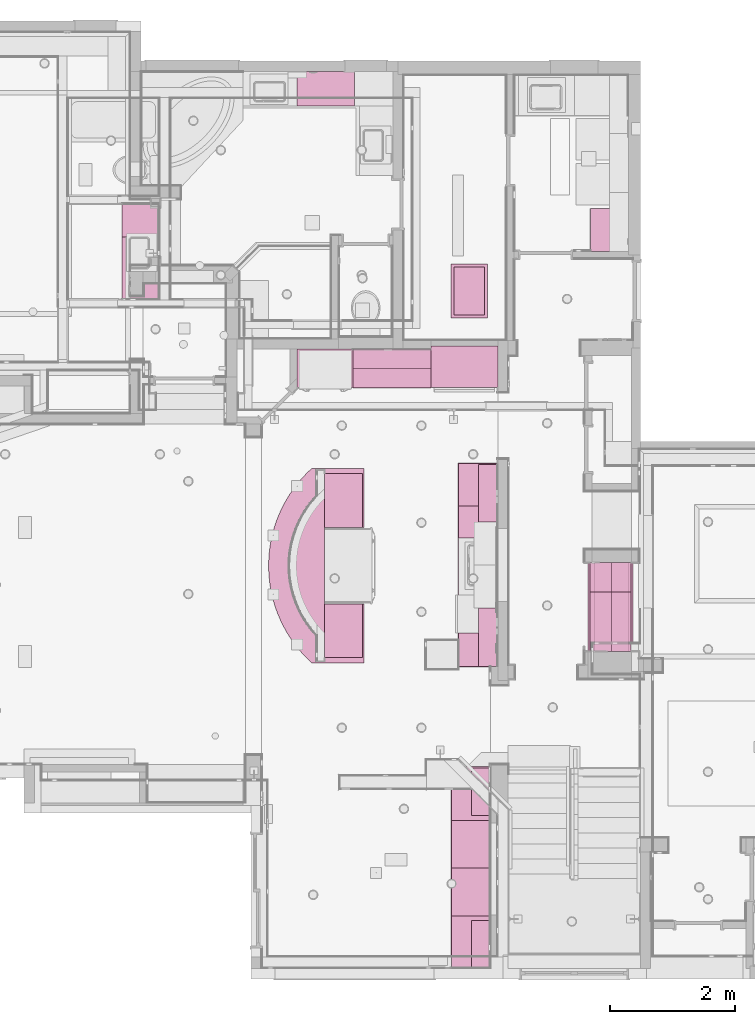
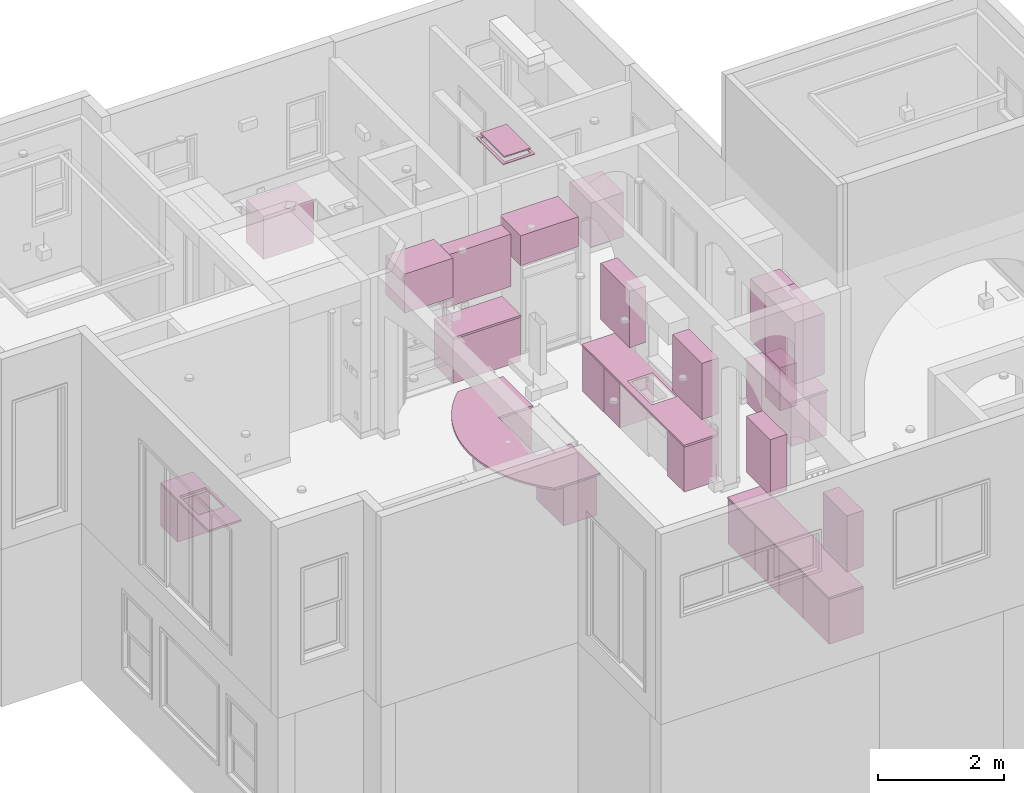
# One storey, part 47 of 60: 33 furnishings.
"""IFC2X3 building model written with IfcOpenShell, lengths in feet."""

from ifc_helpers import new_model, entity, si_unit, converted_unit, direction, frame, frame_2d, origin, origin_2d_with_axis, place, context, subcontext, project, spatial, polyline, circle_curve, parameter, trimmed, segment, composite_curve, rectangle, outline, extrude, faceted_brep, source, transform, mapped, material, type_object, type_shapes, element, save


model = new_model("IFC2X3")

# Units and contexts
model_context = context("Model", 3, precision=0.0001, world=origin(), true_north=direction((6.123031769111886e-17, 1.0)))
plan_context = context("Plan", 3, precision=0.0001, world=origin(), true_north=direction((6.123031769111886e-17, 1.0)))
body_context = subcontext(model_context, "Body", "Model", "MODEL_VIEW")
ifc_project = project(units=[converted_unit("LENGTHUNIT", "FOOT", entity("IfcLengthMeasure", 0.3048), si_unit("LENGTHUNIT", "METRE"), dimensions=[1, 0, 0, 0, 0, 0, 0]), converted_unit("AREAUNIT", "SQUARE FOOT", entity("IfcAreaMeasure", 0.09290304), si_unit("AREAUNIT", "SQUARE_METRE"), dimensions=[2, 0, 0, 0, 0, 0, 0]), converted_unit("PLANEANGLEUNIT", "DEGREE", entity("IfcPlaneAngleMeasure", 0.017453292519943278), si_unit("PLANEANGLEUNIT", "RADIAN"), dimensions=[0, 0, 0, 0, 0, 0, 0])], contexts=[model_context, plan_context])

# Site, building, storey
site_placement = place(None, origin())
site = spatial("IfcSite", under=ifc_project, at=site_placement, Name="Default", CompositionType="ELEMENT")
building_placement = place(site_placement, origin())
building = spatial("IfcBuilding", under=site, at=building_placement, CompositionType="ELEMENT")
storey_placement = place(building_placement, origin())
storey = spatial("IfcBuildingStorey", under=building, at=storey_placement, Name="First floor", CompositionType="ELEMENT", Elevation=0.0)

# Furnishings
ifc_material = material(Name="Default New Material")
furniture_type_1 = type_object("IfcFurnitureType", Name="C_Cabinet Module Double Door:C_Cabinet Module Double Door", AssemblyPlace="NOTDEFINED", material=ifc_material)
shared_shape_1 = source(origin(), body_context, "Body", "SweptSolid", [
    extrude(rectangle(XDim=0.9999999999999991, YDim=2.5, at=origin_2d_with_axis()), frame((0.0, 0.49999999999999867, 0.0), z_axis=(0.0, 0.0, 1.0), x_axis=(0.0, 1.0, 0.0)), (0.0, 0.0, 1.0), 3.5833333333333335),
])
type_shapes(furniture_type_1, [shared_shape_1])
for number, where, z_axis, x_axis in (
    (1, (12.541666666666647, 1.79166666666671, 14.916666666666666), (0.0, 0.0, 1.0), (0.0, 1.0, 0.0)),
    (2, (12.541666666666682, 9.79132150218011, 14.916666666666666), (0.0, 0.0, 1.0), (0.0, 1.0, 0.0)),
):
    element("IfcFurnishingElement", number, at=place(storey_placement, frame(where, z_axis=z_axis, x_axis=x_axis)), inside=storey, type_object=furniture_type_1, material=ifc_material, Name="C_Cabinet Module Double Door:C_Cabinet Module Double Door", ObjectType="C_Cabinet Module Double Door:C_Cabinet Module Double Door", context=body_context, shape_type="MappedRepresentation", body=[
        mapped(shared_shape_1, transform((0.0, 0.0, 0.0), scale=1.0)),
    ])
furniture_type_2 = type_object("IfcFurnitureType", Name="C_Cabinet Module Double Door:C_Cabinet Module Double Door", AssemblyPlace="NOTDEFINED", material=ifc_material)
shared_shape_2 = source(origin(), body_context, "Body", "SweptSolid", [
    extrude(rectangle(XDim=0.9999999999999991, YDim=3.0625, at=origin_2d_with_axis()), frame((0.0, 0.49999999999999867, 0.0), z_axis=(0.0, 0.0, 1.0), x_axis=(0.0, 1.0, 0.0)), (0.0, 0.0, 1.0), 3.5833333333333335),
])
type_shapes(furniture_type_2, [shared_shape_2])
furnishing_1_placement = place(storey_placement, frame((12.916666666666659, 17.885071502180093, 14.916666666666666), z_axis=(0.0, 0.0, 1.0), x_axis=(0.0, 1.0, 0.0)))
element("IfcFurnishingElement", 3, at=furnishing_1_placement, inside=storey, type_object=furniture_type_2, material=ifc_material, Name="C_Cabinet Module Double Door:C_Cabinet Module Double Door", ObjectType="C_Cabinet Module Double Door:C_Cabinet Module Double Door", context=body_context, shape_type="MappedRepresentation", body=[
    mapped(shared_shape_2, transform((0.0, 0.0, 0.0), scale=1.0)),
])
furniture_type_3 = type_object("IfcFurnitureType", Name="C_Cabinet Module Double Door:C_Cabinet Module Double Door", AssemblyPlace="NOTDEFINED", material=ifc_material)
shared_shape_3 = source(origin(), body_context, "Body", "SweptSolid", [
    extrude(rectangle(XDim=0.9999999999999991, YDim=3.0, at=origin_2d_with_axis()), frame((0.0, 0.49999999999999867, 0.0), z_axis=(0.0, 0.0, 1.0), x_axis=(0.0, 1.0, 0.0)), (0.0, 0.0, 1.0), 3.5833333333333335),
])
type_shapes(furniture_type_3, [shared_shape_3])
furnishing_2_placement = place(storey_placement, frame((12.916666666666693, 25.416321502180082, 14.916666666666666), z_axis=(0.0, 0.0, 1.0), x_axis=(0.0, 1.0, 0.0)))
element("IfcFurnishingElement", 4, at=furnishing_2_placement, inside=storey, type_object=furniture_type_3, material=ifc_material, Name="C_Cabinet Module Double Door:C_Cabinet Module Double Door", ObjectType="C_Cabinet Module Double Door:C_Cabinet Module Double Door", context=body_context, shape_type="MappedRepresentation", body=[
    mapped(shared_shape_3, transform((0.0, 0.0, 0.0), scale=1.0)),
])
furniture_type_4 = type_object("IfcFurnitureType", Name="C_Cabinet Module Double Door:C_Cabinet Module Double Door", AssemblyPlace="NOTDEFINED", material=ifc_material)
shared_shape_4 = source(origin(), body_context, "Body", "SweptSolid", [
    extrude(rectangle(XDim=2.0625, YDim=2.7503255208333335, at=origin_2d_with_axis()), frame((0.0, 1.0312499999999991, 0.0), z_axis=(0.0, 0.0, 1.0), x_axis=(0.0, 1.0, 0.0)), (0.0, 0.0, 1.0), 2.875),
])
type_shapes(furniture_type_4, [shared_shape_4])
furnishing_3_placement = place(storey_placement, frame((12.541666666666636, 1.9168294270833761, 10.666666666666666), z_axis=(0.0, 0.0, 1.0), x_axis=(0.0, 1.0, 0.0)))
element("IfcFurnishingElement", 5, at=furnishing_3_placement, inside=storey, type_object=furniture_type_4, material=ifc_material, Name="C_Cabinet Module Double Door:C_Cabinet Module Double Door", ObjectType="C_Cabinet Module Double Door:C_Cabinet Module Double Door", context=body_context, shape_type="MappedRepresentation", body=[
    mapped(shared_shape_4, transform((0.0, 0.0, 0.0), scale=1.0)),
])
furniture_type_5 = type_object("IfcFurnitureType", Name="C_Cabinet Module Double Door:C_Cabinet Module Double Door", AssemblyPlace="NOTDEFINED", material=ifc_material)
shared_shape_5 = source(origin(), body_context, "Body", "SweptSolid", [
    extrude(rectangle(XDim=2.0625, YDim=2.5, at=origin_2d_with_axis()), frame((0.0, 1.0312499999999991, 0.0), z_axis=(0.0, 0.0, 1.0), x_axis=(0.0, 1.0, 0.0)), (0.0, 0.0, 1.0), 2.875),
])
type_shapes(furniture_type_5, [shared_shape_5])
for number, where, z_axis, x_axis in (
    (6, (12.541666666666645, 4.542031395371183, 10.666666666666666), (0.0, 0.0, 1.0), (0.0, 1.0, 0.0)),
    (7, (12.54166666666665, 7.042031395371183, 10.666666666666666), (0.0, 0.0, 1.0), (0.0, 1.0, 0.0)),
):
    element("IfcFurnishingElement", number, at=place(storey_placement, frame(where, z_axis=z_axis, x_axis=x_axis)), inside=storey, type_object=furniture_type_5, material=ifc_material, Name="C_Cabinet Module Double Door:C_Cabinet Module Double Door", ObjectType="C_Cabinet Module Double Door:C_Cabinet Module Double Door", context=body_context, shape_type="MappedRepresentation", body=[
        mapped(shared_shape_5, transform((0.0, 0.0, 0.0), scale=1.0)),
    ])
furniture_type_6 = type_object("IfcFurnitureType", Name="C_Cabinet Module Double Door:C_Cabinet Module Double Door", AssemblyPlace="NOTDEFINED", material=ifc_material)
shared_shape_6 = source(origin(), body_context, "Body", "SweptSolid", [
    extrude(rectangle(XDim=2.0625, YDim=2.8121744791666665, at=origin_2d_with_axis()), frame((0.0, 1.0312499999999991, 0.0), z_axis=(0.0, 0.0, 1.0), x_axis=(0.0, 1.0, 0.0)), (0.0, 0.0, 1.0), 2.875),
])
type_shapes(furniture_type_6, [shared_shape_6])
furnishing_4_placement = place(storey_placement, frame((12.54166666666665, 9.698079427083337, 10.666666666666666), z_axis=(0.0, 0.0, 1.0), x_axis=(0.0, 1.0, 0.0)))
element("IfcFurnishingElement", 8, at=furnishing_4_placement, inside=storey, type_object=furniture_type_6, material=ifc_material, Name="C_Cabinet Module Double Door:C_Cabinet Module Double Door", ObjectType="C_Cabinet Module Double Door:C_Cabinet Module Double Door", context=body_context, shape_type="MappedRepresentation", body=[
    mapped(shared_shape_6, transform((0.0, 0.0, 0.0), scale=1.0)),
])
furniture_type_7 = type_object("IfcFurnitureType", Name="C_Cabinet Module Double Door:C_Cabinet Module Double Door", AssemblyPlace="NOTDEFINED", material=ifc_material)
shared_shape_7 = source(origin(), body_context, "Body", "SweptSolid", [
    extrude(rectangle(XDim=2.0625, YDim=2.2291666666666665, at=origin_2d_with_axis()), frame((0.0, 1.0312499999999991, 0.0), z_axis=(0.0, 0.0, 1.0), x_axis=(0.0, 1.0, 0.0)), (0.0, 0.0, 1.0), 2.875),
])
type_shapes(furniture_type_7, [shared_shape_7])
furnishing_5_placement = place(storey_placement, frame((12.916666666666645, 25.864238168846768, 10.666666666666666), z_axis=(0.0, 0.0, 1.0), x_axis=(0.0, 1.0, 0.0)))
element("IfcFurnishingElement", 9, at=furnishing_5_placement, inside=storey, type_object=furniture_type_7, material=ifc_material, Name="C_Cabinet Module Double Door:C_Cabinet Module Double Door", ObjectType="C_Cabinet Module Double Door:C_Cabinet Module Double Door", context=body_context, shape_type="MappedRepresentation", body=[
    mapped(shared_shape_7, transform((0.0, 0.0, 0.0), scale=1.0)),
])
furniture_type_8 = type_object("IfcFurnitureType", Name="C_Cabinet Single Module:C_Cabinet Single Module", AssemblyPlace="NOTDEFINED", material=ifc_material)
shared_shape_8 = source(origin(), body_context, "Body", "SweptSolid", [
    extrude(rectangle(XDim=1.6666666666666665, YDim=2.062500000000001, at=origin_2d_with_axis()), frame((0.0, -1.0312499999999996, 0.0), z_axis=(0.0, 0.0, 1.0), x_axis=(-1.0, 0.0, 0.0)), (0.0, 0.0, 1.0), 2.875),
])
type_shapes(furniture_type_8, [shared_shape_8])
furnishing_6_placement = place(storey_placement, frame((12.916666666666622, 23.916321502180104, 10.666666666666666), z_axis=(0.0, 0.0, 1.0), x_axis=(0.0, -1.0, 0.0)))
element("IfcFurnishingElement", 10, at=furnishing_6_placement, inside=storey, type_object=furniture_type_8, material=ifc_material, Name="C_Cabinet Single Module:C_Cabinet Single Module", ObjectType="C_Cabinet Single Module:C_Cabinet Single Module", context=body_context, shape_type="MappedRepresentation", body=[
    mapped(shared_shape_8, transform((0.0, 0.0, 0.0), scale=1.0)),
])
furniture_type_9 = type_object("IfcFurnitureType", Name="C_Cabinet Single Module:C_Cabinet Single Module", AssemblyPlace="NOTDEFINED", material=ifc_material)
shared_shape_9 = source(origin(), body_context, "Body", "SweptSolid", [
    extrude(rectangle(XDim=1.7343749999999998, YDim=2.062500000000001, at=origin_2d_with_axis()), frame((0.0, -1.0312499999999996, 0.0), z_axis=(0.0, 0.0, 1.0), x_axis=(-1.0, 0.0, 0.0)), (0.0, 0.0, 1.0), 2.875),
])
type_shapes(furniture_type_9, [shared_shape_9])
furnishing_7_placement = place(storey_placement, frame((12.916666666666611, 17.2210090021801, 10.666666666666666), z_axis=(0.0, 0.0, 1.0), x_axis=(0.0, -1.0, 0.0)))
element("IfcFurnishingElement", 11, at=furnishing_7_placement, inside=storey, type_object=furniture_type_9, material=ifc_material, Name="C_Cabinet Single Module:C_Cabinet Single Module", ObjectType="C_Cabinet Single Module:C_Cabinet Single Module", context=body_context, shape_type="MappedRepresentation", body=[
    mapped(shared_shape_9, transform((0.0, 0.0, 0.0), scale=1.0)),
])
furniture_type_10 = type_object("IfcFurnitureType", Name="C_Cabinet Module Double Door:C_Cabinet Module Double Door", AssemblyPlace="NOTDEFINED", material=ifc_material)
shared_shape_10 = source(origin(), body_context, "Body", "SweptSolid", [
    extrude(rectangle(XDim=1.125, YDim=3.109375, at=origin_2d_with_axis()), frame((0.0, 0.5624999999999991, 0.0), z_axis=(0.0, 0.0, 1.0), x_axis=(0.0, 1.0, 0.0)), (0.0, 0.0, 1.0), 2.75),
])
type_shapes(furniture_type_10, [shared_shape_10])
furnishing_8_placement = place(storey_placement, frame((18.875000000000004, 18.67934233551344, 10.666666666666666), z_axis=(0.0, 0.0, 1.0), x_axis=(0.0, 1.0, 0.0)))
element("IfcFurnishingElement", 12, at=furnishing_8_placement, inside=storey, type_object=furniture_type_10, material=ifc_material, Name="C_Cabinet Module Double Door:C_Cabinet Module Double Door", ObjectType="C_Cabinet Module Double Door:C_Cabinet Module Double Door", context=body_context, shape_type="MappedRepresentation", body=[
    mapped(shared_shape_10, transform((0.0, 0.0, 0.0), scale=1.0)),
])
furniture_type_11 = type_object("IfcFurnitureType", Name="C_Cabinet Single Module:C_Cabinet Single Module", AssemblyPlace="NOTDEFINED", material=ifc_material)
shared_shape_11 = source(origin(), body_context, "Body", "SweptSolid", [
    extrude(rectangle(XDim=1.5572916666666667, YDim=1.1250000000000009, at=origin_2d_with_axis()), frame((0.0, -0.5624999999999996, 0.0), z_axis=(0.0, 0.0, 1.0), x_axis=(-1.0, 0.0, 0.0)), (0.0, 0.0, 1.0), 2.75),
])
type_shapes(furniture_type_11, [shared_shape_11])
furnishing_9_placement = place(storey_placement, frame((17.750000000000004, 21.01267566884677, 10.666666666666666), z_axis=(0.0, 0.0, 1.0), x_axis=(0.0, 1.0, 0.0)))
element("IfcFurnishingElement", 13, at=furnishing_9_placement, inside=storey, type_object=furniture_type_11, material=ifc_material, Name="C_Cabinet Single Module:C_Cabinet Single Module", ObjectType="C_Cabinet Single Module:C_Cabinet Single Module", context=body_context, shape_type="MappedRepresentation", body=[
    mapped(shared_shape_11, transform((0.0, 0.0, 0.0), scale=1.0)),
])
furniture_type_12 = type_object("IfcFurnitureType", Name="C_Cabinet Module Double Door:C_Cabinet Module Double Door", AssemblyPlace="NOTDEFINED", material=ifc_material)
shared_shape_12 = source(origin(), body_context, "Body", "SweptSolid", [
    extrude(rectangle(XDim=0.9999999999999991, YDim=3.119791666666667, at=origin_2d_with_axis()), frame((0.0, 0.49999999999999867, 0.0), z_axis=(0.0, 0.0, 1.0), x_axis=(0.0, 1.0, 0.0)), (0.0, 0.0, 1.0), 2.75),
])
type_shapes(furniture_type_12, [shared_shape_12])
furnishing_10_placement = place(storey_placement, frame((18.875000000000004, 18.684550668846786, 10.666666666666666), z_axis=(0.0, 0.0, 1.0), x_axis=(0.0, -1.0, 0.0)))
element("IfcFurnishingElement", 14, at=furnishing_10_placement, inside=storey, type_object=furniture_type_12, material=ifc_material, Name="C_Cabinet Module Double Door:C_Cabinet Module Double Door", ObjectType="C_Cabinet Module Double Door:C_Cabinet Module Double Door", context=body_context, shape_type="MappedRepresentation", body=[
    mapped(shared_shape_12, transform((0.0, 0.0, 0.0), scale=1.0)),
])
furniture_type_13 = type_object("IfcFurnitureType", Name="C_Cabinet Single Module:C_Cabinet Single Module", AssemblyPlace="NOTDEFINED", material=ifc_material)
shared_shape_13 = source(origin(), body_context, "Body", "SweptSolid", [
    extrude(rectangle(XDim=1.546875, YDim=1.0000000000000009, at=origin_2d_with_axis()), frame((0.0, -0.49999999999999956, 0.0), z_axis=(0.0, 0.0, 1.0), x_axis=(-1.0, 0.0, 0.0)), (0.0, 0.0, 1.0), 2.75),
])
type_shapes(furniture_type_13, [shared_shape_13])
furnishing_11_placement = place(storey_placement, frame((18.875000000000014, 21.01788400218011, 10.666666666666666), z_axis=(0.0, 0.0, 1.0), x_axis=(0.0, 1.0, 0.0)))
element("IfcFurnishingElement", 15, at=furnishing_11_placement, inside=storey, type_object=furniture_type_13, material=ifc_material, Name="C_Cabinet Single Module:C_Cabinet Single Module", ObjectType="C_Cabinet Single Module:C_Cabinet Single Module", context=body_context, shape_type="MappedRepresentation", body=[
    mapped(shared_shape_13, transform((0.0, 0.0, 0.0), scale=1.0)),
])
furniture_type_14 = type_object("IfcFurnitureType", Name="C_Cabinet Module Double Door:C_Cabinet Module Double Door", AssemblyPlace="NOTDEFINED", material=ifc_material)
shared_shape_14 = source(origin(), body_context, "Body", "SweptSolid", [
    extrude(rectangle(XDim=2.1666666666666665, YDim=3.5, at=origin_2d_with_axis()), frame((0.0, 1.0833333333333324, 0.0), z_axis=(0.0, 0.0, 1.0), x_axis=(0.0, 1.0, 0.0)), (0.0, 0.0, 1.0), 1.9114583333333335),
])
type_shapes(furniture_type_14, [shared_shape_14])
furnishing_12_placement = place(storey_placement, frame((11.166666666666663, 33.124999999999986, 16.75), z_axis=(0.0, 0.0, 1.0), x_axis=(-1.0, 0.0, 0.0)))
element("IfcFurnishingElement", 16, at=furnishing_12_placement, inside=storey, type_object=furniture_type_14, material=ifc_material, Name="C_Cabinet Module Double Door:C_Cabinet Module Double Door", ObjectType="C_Cabinet Module Double Door:C_Cabinet Module Double Door", context=body_context, shape_type="MappedRepresentation", body=[
    mapped(shared_shape_14, transform((0.0, 0.0, 0.0), scale=1.0)),
])
furniture_type_15 = type_object("IfcFurnitureType", Name="C_Cabinet Module Double Door:C_Cabinet Module Double Door", AssemblyPlace="NOTDEFINED", material=ifc_material)
shared_shape_15 = source(origin(), body_context, "Body", "SweptSolid", [
    extrude(rectangle(XDim=2.0, YDim=2.9166666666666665, at=origin_2d_with_axis()), frame((0.0, 1.0, 0.0), z_axis=(0.0, 0.0, 1.0), x_axis=(0.0, 1.0, 0.0)), (0.0, 0.0, 1.0), 2.4947916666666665),
])
type_shapes(furniture_type_15, [shared_shape_15])
furnishing_13_placement = place(storey_placement, frame((3.8746628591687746, 32.958333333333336, 16.171875), z_axis=(0.0, 0.0, 1.0), x_axis=(-1.0, 0.0, 0.0)))
element("IfcFurnishingElement", 17, at=furnishing_13_placement, inside=storey, type_object=furniture_type_15, material=ifc_material, Name="C_Cabinet Module Double Door:C_Cabinet Module Double Door", ObjectType="C_Cabinet Module Double Door:C_Cabinet Module Double Door", context=body_context, shape_type="MappedRepresentation", body=[
    mapped(shared_shape_15, transform((0.0, 0.0, 0.0), scale=1.0)),
])
furniture_type_16 = type_object("IfcFurnitureType", Name="C_Cabinet Module Double Door:C_Cabinet Module Double Door", AssemblyPlace="NOTDEFINED", material=ifc_material)
shared_shape_16 = source(origin(), body_context, "Body", "SweptSolid", [
    extrude(rectangle(XDim=2.0, YDim=4.083658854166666, at=origin_2d_with_axis()), frame((0.0, 1.0, 0.0), z_axis=(0.0, 0.0, 1.0), x_axis=(0.0, 1.0, 0.0)), (0.0, 0.0, 1.0), 2.8333333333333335),
])
type_shapes(furniture_type_16, [shared_shape_16])
furnishing_14_placement = place(storey_placement, frame((7.374837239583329, 32.95833333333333, 10.666666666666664), z_axis=(0.0, 0.0, 1.0), x_axis=(-1.0, 0.0, 0.0)))
element("IfcFurnishingElement", 18, at=furnishing_14_placement, inside=storey, type_object=furniture_type_16, material=ifc_material, Name="C_Cabinet Module Double Door:C_Cabinet Module Double Door", ObjectType="C_Cabinet Module Double Door:C_Cabinet Module Double Door", context=body_context, shape_type="MappedRepresentation", body=[
    mapped(shared_shape_16, transform((0.0, 0.0, 0.0), scale=1.0)),
])
furniture_type_17 = type_object("IfcFurnitureType", Name="C_Cabinet Module Double Door:C_Cabinet Module Double Door", AssemblyPlace="NOTDEFINED", material=ifc_material)
shared_shape_17 = source(origin(), body_context, "Body", "SweptSolid", [
    extrude(rectangle(XDim=1.8125, YDim=3.0, at=origin_2d_with_axis()), frame((0.0, 0.9062499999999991, 0.0), z_axis=(0.0, 0.0, 1.0), x_axis=(0.0, 1.0, 0.0)), (0.0, 0.0, 1.0), 2.75),
])
type_shapes(furniture_type_17, [shared_shape_17])
furnishing_15_placement = place(storey_placement, frame((3.911458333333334, 47.499654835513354, 10.666666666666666), z_axis=(0.0, 0.0, 1.0), x_axis=(-1.0, 0.0, 0.0)))
element("IfcFurnishingElement", 19, at=furnishing_15_placement, inside=storey, type_object=furniture_type_17, material=ifc_material, Name="C_Cabinet Module Double Door:C_Cabinet Module Double Door", ObjectType="C_Cabinet Module Double Door:C_Cabinet Module Double Door", context=body_context, shape_type="MappedRepresentation", body=[
    mapped(shared_shape_17, transform((0.0, 0.0, 0.0), scale=1.0)),
])
furniture_type_18 = type_object("IfcFurnitureType", Name="Face Based Case work:2'-6\" X 1'-7\"", AssemblyPlace="NOTDEFINED", material=ifc_material)
shared_shape_18 = source(origin(), body_context, "Body", "SweptSolid", [
    extrude(rectangle(XDim=1.5833333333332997, YDim=2.499999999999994, at=origin_2d_with_axis()), frame((0.0, 0.0, -0.3333333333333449), z_axis=(0.0, 0.0, 1.0), x_axis=(-1.0, 0.0, 0.0)), (0.0, 0.0, 1.0), 0.08333333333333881),
    extrude(outline(polyline([(-0.9583333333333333, -1.4166666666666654), (0.9583333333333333, -1.4166666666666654), (0.9583333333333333, 1.4166666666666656), (-0.9583333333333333, 1.4166666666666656), (-0.9583333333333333, -1.4166666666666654)]), holes=[polyline([(-0.7916666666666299, -1.2499999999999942), (-0.7916666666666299, 1.2499999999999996), (0.7916666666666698, 1.2499999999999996), (0.7916666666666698, -1.2499999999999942), (-0.7916666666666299, -1.2499999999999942)])]), frame((0.0, 0.0, 0.0), z_axis=(0.0, 0.0, 1.0), x_axis=(-1.0, 0.0, 0.0)), (0.0, 0.0, 1.0), 0.049212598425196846),
])
type_shapes(furniture_type_18, [shared_shape_18])
furnishing_16_placement = place(storey_placement, frame((11.416666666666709, 35.99965483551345, 20.666666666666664), z_axis=(0.0, 0.0, -1.0), x_axis=(-1.0, 0.0, 0.0)))
element("IfcFurnishingElement", 20, at=furnishing_16_placement, inside=storey, type_object=furniture_type_18, material=ifc_material, Name="Face Based Case work:2'-6\" X 1'-7\"", ObjectType="Face Based Case work:2'-6\" X 1'-7\"", context=body_context, shape_type="MappedRepresentation", body=[
    mapped(shared_shape_18, transform((0.0, 0.0, 0.0), scale=1.0)),
])
furniture_type_19 = type_object("IfcFurnitureType", Name="C_Cabinet Module Double Door:C_Cabinet Module Double Door", AssemblyPlace="NOTDEFINED", material=ifc_material)
shared_shape_19 = source(origin(), body_context, "Body", "SweptSolid", [
    extrude(rectangle(XDim=1.9791666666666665, YDim=2.25, at=origin_2d_with_axis()), frame((0.0, 0.9895833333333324, 0.0), z_axis=(0.0, 0.0, 1.0), x_axis=(0.0, 1.0, 0.0)), (0.0, 0.0, 1.0), 2.8333333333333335),
])
type_shapes(furniture_type_19, [shared_shape_19])
furnishing_17_placement = place(storey_placement, frame((19.74999999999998, 39.20798816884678, 10.666666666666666), z_axis=(0.0, 0.0, 1.0), x_axis=(0.0, 1.0, 0.0)))
element("IfcFurnishingElement", 21, at=furnishing_17_placement, inside=storey, type_object=furniture_type_19, material=ifc_material, Name="C_Cabinet Module Double Door:C_Cabinet Module Double Door", ObjectType="C_Cabinet Module Double Door:C_Cabinet Module Double Door", context=body_context, shape_type="MappedRepresentation", body=[
    mapped(shared_shape_19, transform((0.0, 0.0, 0.0), scale=1.0)),
])
furniture_type_20 = type_object("IfcFurnitureType", Name="C_Cabinet Single Module:C_Cabinet Single Module", AssemblyPlace="NOTDEFINED", material=ifc_material)
shared_shape_20 = source(origin(), body_context, "Body", "SweptSolid", [
    extrude(rectangle(XDim=1.75, YDim=1.958333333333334, at=frame_2d((3.552713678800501e-15, 4.440892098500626e-16), x_axis=(1.0, 0.0))), frame((-5.7708333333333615, 39.708333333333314, 0.0), z_axis=(0.0, 0.0, 1.0), x_axis=(0.0, 1.0, 0.0)), (0.0, 0.0, 1.0), 2.625),
])
type_shapes(furniture_type_20, [shared_shape_20])
furnishing_18_placement = place(storey_placement, origin())
element("IfcFurnishingElement", 22, at=furnishing_18_placement, inside=storey, type_object=furniture_type_20, material=ifc_material, Name="C_Cabinet Single Module:C_Cabinet Single Module", ObjectType="C_Cabinet Single Module:C_Cabinet Single Module", context=body_context, shape_type="MappedRepresentation", body=[
    mapped(shared_shape_20, transform((0.0, 0.0, 0.0), scale=1.0)),
])
furniture_type_21 = type_object("IfcFurnitureType", Name="C_Cabinet Module Double Door:C_Cabinet Module Double Door", AssemblyPlace="NOTDEFINED", material=ifc_material)
shared_shape_21 = source(origin(), body_context, "Body", "SweptSolid", [
    extrude(rectangle(XDim=0.9999999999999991, YDim=4.083658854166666, at=origin_2d_with_axis()), frame((0.0, 0.49999999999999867, 0.0), z_axis=(0.0, 0.0, 1.0), x_axis=(0.0, 1.0, 0.0)), (0.0, 0.0, 1.0), 3.3333333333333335),
])
type_shapes(furniture_type_21, [shared_shape_21])
furnishing_19_placement = place(storey_placement, frame((7.374825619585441, 32.95833333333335, 14.83333333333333), z_axis=(0.0, 0.0, 1.0), x_axis=(-1.0, 0.0, 0.0)))
element("IfcFurnishingElement", 23, at=furnishing_19_placement, inside=storey, type_object=furniture_type_21, material=ifc_material, Name="C_Cabinet Module Double Door:C_Cabinet Module Double Door", ObjectType="C_Cabinet Module Double Door:C_Cabinet Module Double Door", context=body_context, shape_type="MappedRepresentation", body=[
    mapped(shared_shape_21, transform((0.0, 0.0, 0.0), scale=1.0)),
])
furniture_type_22 = type_object("IfcFurnitureType", Name="C_Casework Empty:C_Casework Empty", AssemblyPlace="NOTDEFINED", material=ifc_material)
shared_shape_22 = source(origin(), body_context, "Body", "Brep", [
    faceted_brep([(1.40625, 2.0, 0.0), (-1.40625, 2.0, 0.0), (-1.4062500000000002, 2.0, 2.708333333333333), (1.40625, 2.0, 2.708333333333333), (-1.3229166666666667, 2.0, 2.625), (-1.3229166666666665, 2.0, 0.08333333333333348), (1.3229166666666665, 2.0, 0.08333333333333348), (1.322916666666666, 2.0, 2.625), (1.40625, 0.0, 2.708333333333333), (1.4062499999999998, 0.0, 0.0), (-1.4062499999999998, 0.0, 2.708333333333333), (-1.4062499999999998, 0.0, 0.0), (1.322916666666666, 0.08333333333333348, 2.625), (-1.3229166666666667, 0.08333333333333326, 2.625), (1.3229166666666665, 0.08333333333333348, 0.08333333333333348), (-1.3229166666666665, 0.08333333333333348, 0.08333333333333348)], [[[0, 1, 2, 3], [4, 5, 6, 7]], [[0, 3, 8, 9]], [[8, 3, 2, 10]], [[10, 2, 1, 11]], [[11, 1, 0, 9]], [[4, 7, 12, 13]], [[7, 6, 14, 12]], [[6, 5, 15, 14]], [[5, 4, 13, 15]], [[8, 10, 11, 9]], [[13, 12, 14, 15]]]),
])
type_shapes(furniture_type_22, [shared_shape_22])
for number, where, z_axis, x_axis, name in (
    (24, (3.833333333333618, 18.21875, 10.666666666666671), (0.0, 0.0, 1.0), (0.0, -1.0, 0.0), "C_Casework Empty:C_Casework Empty"),
    (25, (3.8333333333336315, 25.031250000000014, 10.666666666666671), (0.0, 0.0, 1.0), (0.0, -1.0, 0.0), "C_Casework Empty:C_Casework Empty"),
):
    element("IfcFurnishingElement", number, at=place(storey_placement, frame(where, z_axis=z_axis, x_axis=x_axis)), inside=storey, type_object=furniture_type_22, material=ifc_material, Name=name, ObjectType="C_Casework Empty:C_Casework Empty", context=body_context, shape_type="MappedRepresentation", body=[
        mapped(shared_shape_22, transform((0.0, 0.0, 0.0), scale=1.0)),
    ])
furniture_type_23 = type_object("IfcFurnitureType", Name="C_Counter Top Linear (without skirting):C_Counter Top Linear (without skirting)", AssemblyPlace="NOTDEFINED", material=ifc_material)
shared_shape_23 = source(origin(), body_context, "Body", "SweptSolid", [
    extrude(rectangle(XDim=2.0, YDim=4.083658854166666, at=origin_2d_with_axis()), frame((0.0, 1.0, 0.0), z_axis=(0.0, 0.0, 1.0), x_axis=(0.0, 1.0, 0.0)), (0.0, 0.0, 1.0), 0.125),
])
type_shapes(furniture_type_23, [shared_shape_23])
furnishing_20_placement = place(storey_placement, frame((7.374837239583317, 30.91666666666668, 13.499999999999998)))
element("IfcFurnishingElement", 26, at=furnishing_20_placement, inside=storey, type_object=furniture_type_23, material=ifc_material, Name="C_Counter Top Linear (without skirting):C_Counter Top Linear (without skirting)", ObjectType="C_Counter Top Linear (without skirting):C_Counter Top Linear (without skirting)", context=body_context, shape_type="MappedRepresentation", body=[
    mapped(shared_shape_23, transform((0.0, 0.0, 0.0), scale=1.0)),
])
furniture_type_24 = type_object("IfcFurnitureType", Name="C_Counter Top Linear (without skirting)_1:C_Counter Top Linear (without skirting)", AssemblyPlace="NOTDEFINED", material=ifc_material)
shared_shape_24 = source(origin(), body_context, "Body", "SweptSolid", [
    extrude(outline(polyline([(-1.2638888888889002, -3.562499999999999), (0.44444444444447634, -3.562499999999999), (0.4444444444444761, -3.541666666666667), (0.8194444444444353, -3.5416666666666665), (0.8194444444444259, 7.104166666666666), (-1.26388888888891, 7.104166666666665), (-1.2638888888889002, -3.562499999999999)]), holes=[polyline([(-0.8888888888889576, 2.9791666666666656), (0.6111111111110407, 2.979166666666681), (0.6111111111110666, 0.47916666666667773), (-0.8888888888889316, 0.47916666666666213), (-0.8888888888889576, 2.9791666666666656)])]), frame((12.097222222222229, 19.895488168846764, 0.0)), (0.0, 0.0, 1.0), 0.125),
])
type_shapes(furniture_type_24, [shared_shape_24])
furnishing_21_placement = place(storey_placement, frame((0.0, 0.0, 13.541666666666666)))
element("IfcFurnishingElement", 27, at=furnishing_21_placement, inside=storey, type_object=furniture_type_24, material=ifc_material, Name="C_Counter Top Linear (without skirting)_1:C_Counter Top Linear (without skirting)", ObjectType="C_Counter Top Linear (without skirting)_1:C_Counter Top Linear (without skirting)", context=body_context, shape_type="MappedRepresentation", body=[
    mapped(shared_shape_24, transform((0.0, 0.0, 0.0), scale=1.0)),
])
furniture_type_25 = type_object("IfcFurnitureType", Name="C_Counter Top Linear (without skirting):C_Counter Top Linear (without skirting)", AssemblyPlace="NOTDEFINED", material=ifc_material)
shared_shape_25 = source(origin(), body_context, "Body", "SweptSolid", [
    extrude(rectangle(XDim=2.0833333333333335, YDim=10.583333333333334, at=origin_2d_with_axis()), frame((0.0, 1.0416666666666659, 0.0), z_axis=(0.0, 0.0, 1.0), x_axis=(0.0, 1.0, 0.0)), (0.0, 0.0, 1.0), 0.125),
])
type_shapes(furniture_type_25, [shared_shape_25])
furnishing_22_placement = place(storey_placement, frame((12.541666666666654, 5.8333333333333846, 13.541666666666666), z_axis=(0.0, 0.0, 1.0), x_axis=(0.0, 1.0, 0.0)))
element("IfcFurnishingElement", 28, at=furnishing_22_placement, inside=storey, type_object=furniture_type_25, material=ifc_material, Name="C_Counter Top Linear (without skirting):C_Counter Top Linear (without skirting)", ObjectType="C_Counter Top Linear (without skirting):C_Counter Top Linear (without skirting)", context=body_context, shape_type="MappedRepresentation", body=[
    mapped(shared_shape_25, transform((0.0, 0.0, 0.0), scale=1.0)),
])
furniture_type_26 = type_object("IfcFurnitureType", Name="C_Counter Top curved:C_Counter Top curved", AssemblyPlace="NOTDEFINED", material=ifc_material)
shared_shape_26 = source(origin(), body_context, "Body", "SweptSolid", [
    extrude(outline(composite_curve([segment(polyline([(-5.083333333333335, -1.2083333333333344), (-2.0, -1.2083333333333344)]), True, "CONTINUOUS"), segment(polyline([(-2.0, -1.2083333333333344), (-2.0, 0.8749999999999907)]), True, "CONTINUOUS"), segment(polyline([(-2.0, 0.8749999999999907), (2.0, 0.8749999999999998)]), True, "CONTINUOUS"), segment(polyline([(2.0, 0.8749999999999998), (2.0, -1.2083333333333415)]), True, "CONTINUOUS"), segment(polyline([(2.0, -1.2083333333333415), (5.08333333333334, -1.2083333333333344)]), True, "CONTINUOUS"), segment(polyline([(5.08333333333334, -1.2083333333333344), (5.0833333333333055, 1.5416666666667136)]), True, "CONTINUOUS"), segment(trimmed(circle_curve(frame_2d((0.0, -3.0745707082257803), x_axis=(0.0, -1.0)), 6.866580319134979), [parameter(132.24297406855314)], [parameter(227.7570259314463)], True, "PARAMETER"), True, "CONTINUOUS"), segment(polyline([(-5.083333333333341, 1.5416666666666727), (-5.083333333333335, -1.2083333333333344)]), True, "CONTINUOUS")], self_intersect=False)), frame((0.0, -0.874999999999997, 0.0)), (0.0, 0.0, 1.0), 0.125),
])
type_shapes(furniture_type_26, [shared_shape_26])
furnishing_23_placement = place(storey_placement, frame((3.8333333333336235, 21.624999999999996, 13.375), z_axis=(0.0, 0.0, 1.0), x_axis=(0.0, 1.0, 0.0)))
element("IfcFurnishingElement", 29, at=furnishing_23_placement, inside=storey, type_object=furniture_type_26, material=ifc_material, Name="C_Counter Top curved:C_Counter Top curved", ObjectType="C_Counter Top curved:C_Counter Top curved", context=body_context, shape_type="MappedRepresentation", body=[
    mapped(shared_shape_26, transform((0.0, 0.0, 0.0), scale=1.0)),
])
furniture_type_27 = type_object("IfcFurnitureType", Name="C_Counter Top Linear (without skirting):C_Counter Top Linear (without skirting)", AssemblyPlace="NOTDEFINED", material=ifc_material)
shared_shape_27 = source(origin(), body_context, "Body", "SweptSolid", [
    extrude(outline(polyline([(-0.9791666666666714, -2.5208333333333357), (0.9791666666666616, -2.5208333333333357), (0.9791666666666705, 2.5208333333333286), (-0.9791666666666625, 2.5208333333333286), (-0.9791666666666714, -2.5208333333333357)]), holes=[polyline([(0.7499999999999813, -0.9583333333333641), (-0.8333333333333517, -0.958333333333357), (-0.8333333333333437, 1.04166666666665), (0.7499999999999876, 1.04166666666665), (0.7499999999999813, -0.9583333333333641)])]), frame((-5.770833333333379, 38.06249999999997, 0.0), z_axis=(0.0, 0.0, 1.0), x_axis=(-1.0, 0.0, 0.0)), (0.0, 0.0, 1.0), 0.125),
])
type_shapes(furniture_type_27, [shared_shape_27])
furnishing_24_placement = place(storey_placement, frame((0.0, 0.0, 2.6250000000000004)))
element("IfcFurnishingElement", 30, at=furnishing_24_placement, inside=storey, type_object=furniture_type_27, material=ifc_material, Name="C_Counter Top Linear (without skirting):C_Counter Top Linear (without skirting)", ObjectType="C_Counter Top Linear (without skirting):C_Counter Top Linear (without skirting)", context=body_context, shape_type="MappedRepresentation", body=[
    mapped(shared_shape_27, transform((0.0, 0.0, 0.0), scale=1.0)),
])
furniture_type_28 = type_object("IfcFurnitureType", Name="C_Counter Top Linear (without skirting):C_Counter Top Linear (without skirting)", AssemblyPlace="NOTDEFINED", material=ifc_material)
shared_shape_28 = source(origin(), body_context, "Body", "SweptSolid", [
    extrude(rectangle(XDim=2.3333333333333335, YDim=4.666666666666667, at=origin_2d_with_axis()), frame((0.0, 1.1666666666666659, 0.0), z_axis=(0.0, 0.0, 1.0), x_axis=(0.0, 1.0, 0.0)), (0.0, 0.0, 1.0), 0.125),
])
type_shapes(furniture_type_28, [shared_shape_28])
furnishing_25_placement = place(storey_placement, frame((19.97916666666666, 19.45798816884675, 13.416666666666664), z_axis=(0.0, 0.0, 1.0), x_axis=(0.0, 1.0, 0.0)))
element("IfcFurnishingElement", 31, at=furnishing_25_placement, inside=storey, type_object=furniture_type_28, material=ifc_material, Name="C_Counter Top Linear (without skirting):C_Counter Top Linear (without skirting)", ObjectType="C_Counter Top Linear (without skirting):C_Counter Top Linear (without skirting)", context=body_context, shape_type="MappedRepresentation", body=[
    mapped(shared_shape_28, transform((0.0, 0.0, 0.0), scale=1.0)),
])
furniture_type_29 = type_object("IfcFurnitureType", Name="C_Cabinet Module Double Door:C_Cabinet Module Double Door", AssemblyPlace="NOTDEFINED", material=ifc_material)
shared_shape_29 = source(origin(), body_context, "Body", "SweptSolid", [
    extrude(rectangle(XDim=1.7916666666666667, YDim=3.119791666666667, at=origin_2d_with_axis()), frame((0.0, 0.8958333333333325, 0.0), z_axis=(0.0, 0.0, 1.0), x_axis=(0.0, 1.0, 0.0)), (0.0, 0.0, 1.0), 3.9114583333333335),
])
type_shapes(furniture_type_29, [shared_shape_29])
furnishing_26_placement = place(storey_placement, frame((17.979166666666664, 18.684550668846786, 14.588541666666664), z_axis=(0.0, 0.0, 1.0), x_axis=(0.0, -1.0, 0.0)))
element("IfcFurnishingElement", 32, at=furnishing_26_placement, inside=storey, type_object=furniture_type_29, material=ifc_material, Name="C_Cabinet Module Double Door:C_Cabinet Module Double Door", ObjectType="C_Cabinet Module Double Door:C_Cabinet Module Double Door", context=body_context, shape_type="MappedRepresentation", body=[
    mapped(shared_shape_29, transform((0.0, 0.0, 0.0), scale=1.0)),
])
furniture_type_30 = type_object("IfcFurnitureType", Name="C_Cabinet Single Module:C_Cabinet Single Module", AssemblyPlace="NOTDEFINED", material=ifc_material)
shared_shape_30 = source(origin(), body_context, "Body", "SweptSolid", [
    extrude(rectangle(XDim=1.546875, YDim=1.7916666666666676, at=origin_2d_with_axis()), frame((0.0, -0.8958333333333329, 0.0), z_axis=(0.0, 0.0, 1.0), x_axis=(-1.0, 0.0, 0.0)), (0.0, 0.0, 1.0), 3.9114583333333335),
])
type_shapes(furniture_type_30, [shared_shape_30])
furnishing_27_placement = place(storey_placement, frame((17.97916666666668, 21.017884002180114, 14.588541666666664), z_axis=(0.0, 0.0, 1.0), x_axis=(0.0, 1.0, 0.0)))
element("IfcFurnishingElement", 33, at=furnishing_27_placement, inside=storey, type_object=furniture_type_30, material=ifc_material, Name="C_Cabinet Single Module:C_Cabinet Single Module", ObjectType="C_Cabinet Single Module:C_Cabinet Single Module", context=body_context, shape_type="MappedRepresentation", body=[
    mapped(shared_shape_30, transform((0.0, 0.0, 0.0), scale=1.0)),
])

save(model, "model.ifc")
